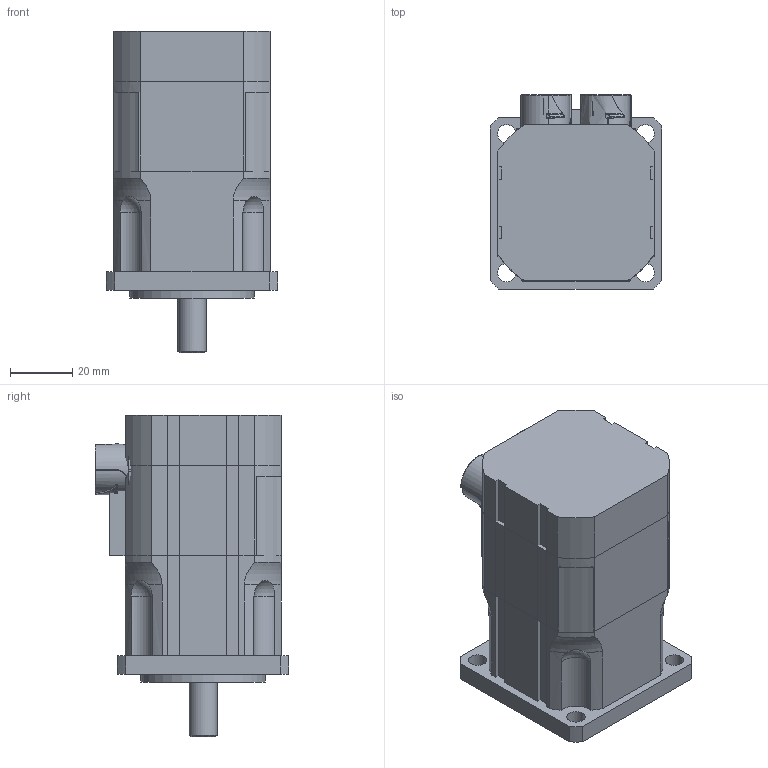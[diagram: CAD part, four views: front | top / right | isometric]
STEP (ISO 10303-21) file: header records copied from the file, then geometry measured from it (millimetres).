
FILE_DESCRIPTION(/* description */ ('Alibre Inc.'),/* implementation_level */ '2;1');
FILE_NAME(/* name */ 'export0',/* time_stamp */ '2011-03-11T13:40:02+01:00',/* author */ (''),/* organization */ (''),/* preprocessor_version */ 'ST-DEVELOPER v12',/* originating_system */ 'Alibre',/* authorisation */ '');
FILE_SCHEMA (('ALIBRE_SCHEMA','CONFIG_CONTROL_DESIGN'));
Length unit declared in the file: millimetre
Products named in the file (4): ID_1
Bounding box: 55 x 62.09 x 103 mm (x, y, z)
Volume: 295763.8 mm3; surface area: 44120.3 mm2
Topology: 3 solids, 4 shells, 1368 faces, 3360 edges, 2040 vertices
Faces by surface type: bspline 491, plane 364, cylinder 347, torus 86, cone 50, sphere 30
Full cylindrical faces by diameter (mm): 1 x21, 1.5 x1, 1.8 x2, 3.2 x4, 4 x1, 7.5 x1, 8 x1, 9 x1, 11.75 x1, 16.2 x1, 16.95 x1, 17.025 x1, 18.8 x1, 19.8 x1, 20 x1, 22.765 x1, 26 x1, 40 x1
Entity records: 148630 total; most frequent: CARTESIAN_POINT 84317, ORIENTED_EDGE 13050, DIRECTION 10147, EDGE_CURVE 6525, AXIS2_PLACEMENT_3D 4273, VERTEX_POINT 4143, EDGE_LOOP 3294, FACE_BOUND 3294
